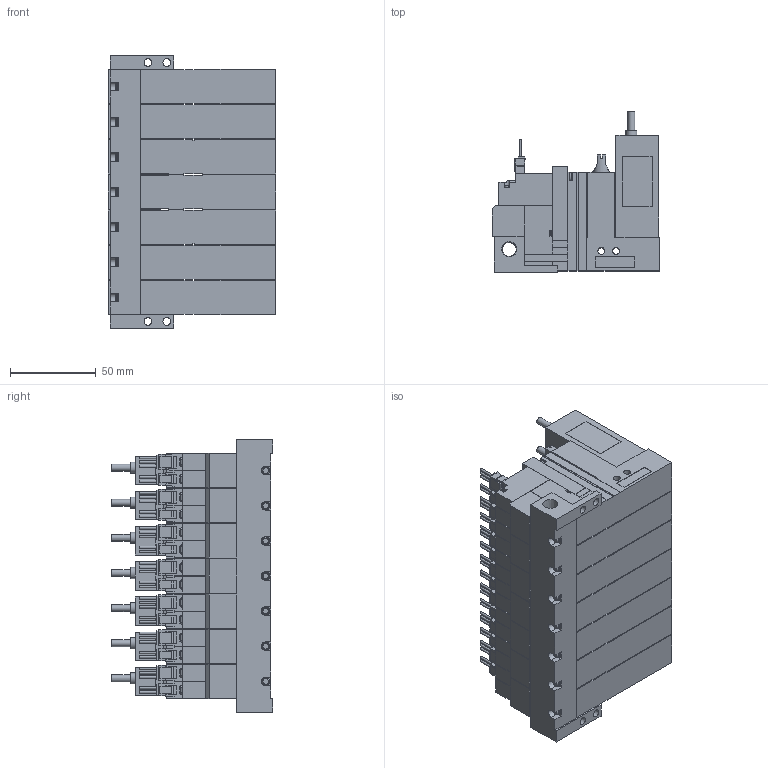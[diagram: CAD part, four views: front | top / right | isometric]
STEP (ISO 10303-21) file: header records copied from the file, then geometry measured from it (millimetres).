
FILE_DESCRIPTION(('STEP AP203'),'1');
FILE_NAME('VG_VGPLC5WLR707.stp','2025-02-26T23:21:04',(' '),(' '),'Spatial InterOp 3D',' ',' ');
FILE_SCHEMA(('CONFIG_CONTROL_DESIGN'));
Length unit declared in the file: millimetre
Products named in the file (5): BMC22M※※※※VG_VGPLC5WLR707; Solenoid valve W; Pressure sensor VGLC; Unit LC; Base MR70R
Assembly tree (22 placements, depth 2):
  BMC22M※※※※VG_VGPLC5WLR707
    Solenoid valve W  x7
    Pressure sensor VGLC  x7
    Unit LC  x7
    Base MR70R
Bounding box: 97.6 x 94 x 159 mm (x, y, z)
Volume: 788290 mm3; surface area: 202073.2 mm2
Topology: 22 solids, 22 shells, 2793 faces, 7472 edges, 4926 vertices
Faces by surface type: plane 2366, cylinder 341, cone 51, torus 35
Full cylindrical faces by diameter (mm): 1.4 x35, 2.5 x21, 3 x28, 3.5 x28, 3.6 x7, 4 x42, 4.134 x7, 4.5 x4, 5.2 x7, 6 x7, 6.5 x7, 6.6 x7, 8.279 x1
Entity records: 15796 total; most frequent: CARTESIAN_POINT 3067, DIRECTION 2523, ORIENTED_EDGE 2426, EDGE_CURVE 1213, LINE 961, VECTOR 961, VERTEX_POINT 854, AXIS2_PLACEMENT_3D 781
